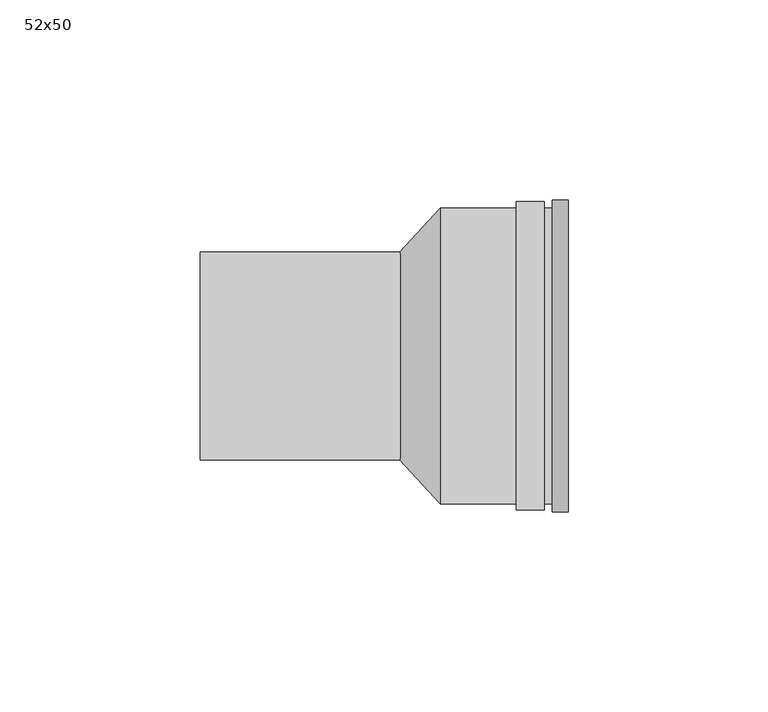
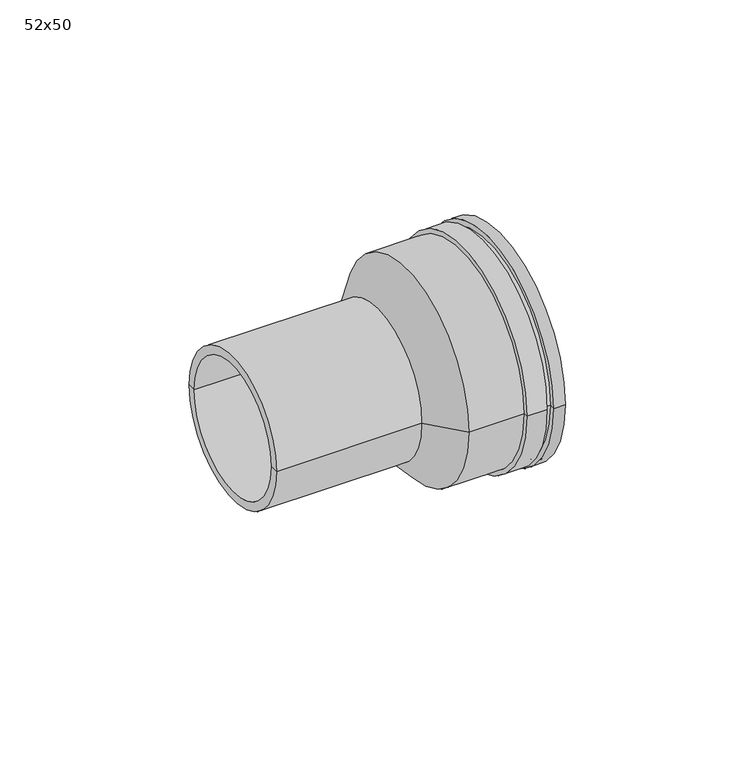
"""IFC4 building model written with IfcOpenShell, lengths in millimetres: pipe fitting geometry, AliaxisFR_Friaphon_UrinalConnector_FR : 52x50."""

from ifc_helpers import new_model, si_unit, frame, origin, place, context, project, spatial, polyline, circle_curve, source, transform, mapped, element, save
from ifc_brep_helpers import plane_surface, cylinder_surface, revolved_surface, advanced_brep


def pipe_fitting_52x50_36201972(model_context):
    return source(origin(), model_context, "Body", "AdvancedBrep", [
        advanced_brep(
        [(29.0, 38.5404487, 0.0), (29.0, -38.5404487, 0.0), (29.0, -37.0, 0.0), (29.0, 37.0, 0.0), (36.0, 38.5404487, 0.0), (36.0, -38.5404487, 0.0), (36.0, 37.0, 0.0), (36.0, -37.0, 0.0), (38.0, 37.0, 0.0), (38.0, -37.0, 0.0), (38.0, 34.0, 0.0), (38.0, -34.0, 0.0), (11.3271097, 34.0, 0.0), (11.3271097, -34.0, 0.0), (1.3271097, 23.0, 0.0), (1.3271097, -23.0, 0.0), (-50.0, 23.0, 0.0), (-50.0, -23.0, 0.0), (-50.0, 26.0, 0.0), (-50.0, -26.0, 0.0), (0.0, 26.0, 0.0), (0.0, -26.0, 0.0), (10.0, 37.0, 0.0), (10.0, -37.0, 0.0)],
        [
            (0, 1, circle_curve(frame((29.0, 0.0, 0.0), z_axis=(-1.0, 0.0, 0.0), x_axis=(0.0, -1.0, 0.0)), 38.5404487)),
            (1, 2),
            (2, 3, circle_curve(frame((29.0, 0.0, 0.0), z_axis=(1.0, 0.0, 0.0), x_axis=(0.0, -1.0, 0.0)), 37.0)),
            (3, 0),
            (1, 0, circle_curve(frame((29.0, 0.0, 0.0), z_axis=(-1.0, 0.0, 0.0), x_axis=(0.0, -1.0, 0.0)), 38.5404487)),
            (3, 2, circle_curve(frame((29.0, 0.0, 0.0), z_axis=(1.0, 0.0, 0.0), x_axis=(0.0, -1.0, 0.0)), 37.0)),
            (4, 5, circle_curve(frame((36.0, 0.0, 0.0), z_axis=(-1.0, 0.0, 0.0), x_axis=(0.0, -1.0, 0.0)), 38.5404487)),
            (5, 1),
            (0, 4),
            (5, 4, circle_curve(frame((36.0, 0.0, 0.0), z_axis=(-1.0, 0.0, 0.0), x_axis=(0.0, -1.0, 0.0)), 38.5404487)),
            (6, 7, circle_curve(frame((36.0, 0.0, 0.0), z_axis=(-1.0, 0.0, 0.0), x_axis=(0.0, -1.0, 0.0)), 37.0)),
            (7, 5),
            (4, 6),
            (7, 6, circle_curve(frame((36.0, 0.0, 0.0), z_axis=(-1.0, 0.0, 0.0), x_axis=(0.0, -1.0, 0.0)), 37.0)),
            (8, 9, circle_curve(frame((38.0, 0.0, 0.0), z_axis=(-1.0, 0.0, 0.0), x_axis=(0.0, -1.0, 0.0)), 37.0)),
            (9, 7),
            (6, 8),
            (9, 8, circle_curve(frame((38.0, 0.0, 0.0), z_axis=(-1.0, 0.0, 0.0), x_axis=(0.0, -1.0, 0.0)), 37.0)),
            (10, 11, circle_curve(frame((38.0, 0.0, 0.0), z_axis=(-1.0, 0.0, 0.0), x_axis=(0.0, -1.0, 0.0)), 34.0)),
            (11, 9),
            (8, 10),
            (11, 10, circle_curve(frame((38.0, 0.0, 0.0), z_axis=(-1.0, 0.0, 0.0), x_axis=(0.0, -1.0, 0.0)), 34.0)),
            (12, 13, circle_curve(frame((11.3271097, 0.0, 0.0), z_axis=(-1.0, 0.0, 0.0), x_axis=(0.0, -1.0, 0.0)), 34.0)),
            (13, 11),
            (10, 12),
            (13, 12, circle_curve(frame((11.3271097, 0.0, 0.0), z_axis=(-1.0, 0.0, 0.0), x_axis=(0.0, -1.0, 0.0)), 34.0)),
            (14, 15, circle_curve(frame((1.3271097, 0.0, 0.0), z_axis=(-1.0, 0.0, 0.0), x_axis=(0.0, -1.0, 0.0)), 23.0)),
            (15, 13),
            (12, 14),
            (15, 14, circle_curve(frame((1.3271097, 0.0, 0.0), z_axis=(-1.0, 0.0, 0.0), x_axis=(0.0, -1.0, 0.0)), 23.0)),
            (16, 17, circle_curve(frame((-50.0, 0.0, 0.0), z_axis=(-1.0, 0.0, 0.0), x_axis=(0.0, -1.0, 0.0)), 23.0)),
            (17, 15),
            (14, 16),
            (17, 16, circle_curve(frame((-50.0, 0.0, 0.0), z_axis=(-1.0, 0.0, 0.0), x_axis=(0.0, -1.0, 0.0)), 23.0)),
            (18, 19, circle_curve(frame((-50.0, 0.0, 0.0), z_axis=(-1.0, 0.0, 0.0), x_axis=(0.0, -1.0, 0.0)), 26.0)),
            (19, 17),
            (16, 18),
            (19, 18, circle_curve(frame((-50.0, 0.0, 0.0), z_axis=(-1.0, 0.0, 0.0), x_axis=(0.0, -1.0, 0.0)), 26.0)),
            (20, 21, circle_curve(frame((0.0, 0.0, 0.0), z_axis=(-1.0, 0.0, 0.0), x_axis=(0.0, -1.0, 0.0)), 26.0)),
            (21, 19),
            (18, 20),
            (21, 20, circle_curve(frame((0.0, 0.0, 0.0), z_axis=(-1.0, 0.0, 0.0), x_axis=(0.0, -1.0, 0.0)), 26.0)),
            (22, 23, circle_curve(frame((10.0, 0.0, 0.0), z_axis=(-1.0, 0.0, 0.0), x_axis=(0.0, -1.0, 0.0)), 37.0)),
            (23, 21),
            (20, 22),
            (23, 22, circle_curve(frame((10.0, 0.0, 0.0), z_axis=(-1.0, 0.0, 0.0), x_axis=(0.0, -1.0, 0.0)), 37.0)),
            (2, 23),
            (22, 3),
        ],
        [
            plane_surface(frame((29.0, 0.0, 0.0), z_axis=(-1.0, 0.0, 0.0), x_axis=(0.0, -1.0, 0.0))),
            cylinder_surface(frame((2000.0, 0.0, 0.0), z_axis=(1.0, 0.0, 0.0), x_axis=(0.0, -1.0, 0.0)), 38.5404487),
            plane_surface(frame((36.0, 0.0, 0.0), z_axis=(1.0, 0.0, 0.0), x_axis=(0.0, -1.0, 0.0))),
            cylinder_surface(frame((2000.0, 0.0, 0.0), z_axis=(1.0, 0.0, 0.0), x_axis=(0.0, -1.0, 0.0)), 37.0),
            plane_surface(frame((38.0, 0.0, 0.0), z_axis=(1.0, 0.0, 0.0), x_axis=(0.0, -1.0, 0.0))),
            revolved_surface(polyline([(38.0, -34.0, 0.0), (11.327109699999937, -34.0, 0.0)]), (2000.0, 0.0, 0.0), (1.0, 0.0, 0.0)),
            revolved_surface(polyline([(11.3271097, -34.0, 0.0), (1.3271097, -23.0, 0.0)]), (2000.0, 0.0, 0.0), (1.0, 0.0, 0.0)),
            revolved_surface(polyline([(1.3271096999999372, -23.0, 0.0), (-50.0, -23.0, 0.0)]), (2000.0, 0.0, 0.0), (1.0, 0.0, 0.0)),
            plane_surface(frame((-50.0, 0.0, 0.0), z_axis=(-1.0, 0.0, 0.0), x_axis=(0.0, -1.0, 0.0))),
            cylinder_surface(frame((2000.0, 0.0, 0.0), z_axis=(1.0, 0.0, 0.0), x_axis=(0.0, -1.0, 0.0)), 26.0),
            revolved_surface(polyline([(0.0, -26.0, 0.0), (10.0, -37.0, 0.0)]), (2000.0, 0.0, 0.0), (1.0, 0.0, 0.0)),
        ],
        [
            (0, [[1, 2, 3, 4]]),
            (0, [[5, -4, 6, -2]]),
            (1, [[7, 8, -1, 9]]),
            (1, [[10, -9, -5, -8]]),
            (2, [[11, 12, -7, 13]]),
            (2, [[14, -13, -10, -12]]),
            (3, [[15, 16, -11, 17]]),
            (3, [[18, -17, -14, -16]]),
            (4, [[19, 20, -15, 21]]),
            (4, [[22, -21, -18, -20]]),
            (5, [[23, 24, -19, 25]]),
            (5, [[26, -25, -22, -24]]),
            (6, [[27, 28, -23, 29]]),
            (6, [[30, -29, -26, -28]]),
            (7, [[31, 32, -27, 33]]),
            (7, [[34, -33, -30, -32]]),
            (8, [[35, 36, -31, 37]]),
            (8, [[38, -37, -34, -36]]),
            (9, [[39, 40, -35, 41]]),
            (9, [[42, -41, -38, -40]]),
            (10, [[43, 44, -39, 45]]),
            (10, [[46, -45, -42, -44]]),
            (3, [[-3, 47, -43, 48]]),
            (3, [[-6, -48, -46, -47]]),
        ],
    ),
        advanced_brep(
        [(10.0, -25.0, 0.0), (10.0, 25.0, 0.0), (10.0, 34.0, 0.0), (10.0, -34.0, 0.0), (42.0, -25.0, 0.0), (42.0, 25.0, 0.0), (42.0, -39.0, 0.0), (42.0, 39.0, 0.0), (38.0, -39.0, 0.0), (38.0, 39.0, 0.0), (38.0, -34.0, 0.0), (38.0, 34.0, 0.0)],
        [
            (0, 1, circle_curve(frame((10.0, 0.0, 0.0), z_axis=(1.0, 0.0, 0.0), x_axis=(0.0, 1.0, 0.0)), 25.0)),
            (1, 2),
            (2, 3, circle_curve(frame((10.0, 0.0, 0.0), z_axis=(-1.0, 0.0, 0.0), x_axis=(0.0, 1.0, 0.0)), 34.0)),
            (3, 0),
            (1, 0, circle_curve(frame((10.0, 0.0, 0.0), z_axis=(1.0, 0.0, 0.0), x_axis=(0.0, 1.0, 0.0)), 25.0)),
            (3, 2, circle_curve(frame((10.0, 0.0, 0.0), z_axis=(-1.0, 0.0, 0.0), x_axis=(0.0, 1.0, 0.0)), 34.0)),
            (4, 5, circle_curve(frame((42.0, 0.0, 0.0), z_axis=(1.0, 0.0, 0.0), x_axis=(0.0, 1.0, 0.0)), 25.0)),
            (5, 1),
            (0, 4),
            (5, 4, circle_curve(frame((42.0, 0.0, 0.0), z_axis=(1.0, 0.0, 0.0), x_axis=(0.0, 1.0, 0.0)), 25.0)),
            (6, 7, circle_curve(frame((42.0, 0.0, 0.0), z_axis=(1.0, 0.0, 0.0), x_axis=(0.0, 1.0, 0.0)), 39.0)),
            (7, 5),
            (4, 6),
            (7, 6, circle_curve(frame((42.0, 0.0, 0.0), z_axis=(1.0, 0.0, 0.0), x_axis=(0.0, 1.0, 0.0)), 39.0)),
            (8, 9, circle_curve(frame((38.0, 0.0, 0.0), z_axis=(1.0, 0.0, 0.0), x_axis=(0.0, 1.0, 0.0)), 39.0)),
            (9, 7),
            (6, 8),
            (9, 8, circle_curve(frame((38.0, 0.0, 0.0), z_axis=(1.0, 0.0, 0.0), x_axis=(0.0, 1.0, 0.0)), 39.0)),
            (10, 11, circle_curve(frame((38.0, 0.0, 0.0), z_axis=(1.0, 0.0, 0.0), x_axis=(0.0, 1.0, 0.0)), 34.0)),
            (11, 9),
            (8, 10),
            (11, 10, circle_curve(frame((38.0, 0.0, 0.0), z_axis=(1.0, 0.0, 0.0), x_axis=(0.0, 1.0, 0.0)), 34.0)),
            (2, 11),
            (10, 3),
        ],
        [
            plane_surface(frame((10.0, 0.0, 0.0), z_axis=(-1.0, 0.0, 0.0), x_axis=(0.0, 1.0, 0.0))),
            revolved_surface(polyline([(10.0, 25.0, 0.0), (42.0, 25.0, 0.0)]), (2000.0, 0.0, 0.0), (-1.0, 0.0, 0.0)),
            plane_surface(frame((42.0, 0.0, 0.0), z_axis=(1.0, 0.0, 0.0), x_axis=(0.0, 1.0, 0.0))),
            cylinder_surface(frame((2000.0, 0.0, 0.0), z_axis=(-1.0, 0.0, 0.0), x_axis=(0.0, 1.0, 0.0)), 39.0),
            plane_surface(frame((38.0, 0.0, 0.0), z_axis=(-1.0, 0.0, 0.0), x_axis=(0.0, 1.0, 0.0))),
            cylinder_surface(frame((2000.0, 0.0, 0.0), z_axis=(-1.0, 0.0, 0.0), x_axis=(0.0, 1.0, 0.0)), 34.0),
        ],
        [
            (0, [[1, 2, 3, 4]]),
            (0, [[5, -4, 6, -2]]),
            (1, [[7, 8, -1, 9]]),
            (1, [[10, -9, -5, -8]]),
            (2, [[11, 12, -7, 13]]),
            (2, [[14, -13, -10, -12]]),
            (3, [[15, 16, -11, 17]]),
            (3, [[18, -17, -14, -16]]),
            (4, [[19, 20, -15, 21]]),
            (4, [[22, -21, -18, -20]]),
            (5, [[-3, 23, -19, 24]]),
            (5, [[-6, -24, -22, -23]]),
        ],
    ),
    ])


if __name__ == "__main__":
    model = new_model("IFC4")
    model_context = context("Model", 3, world=origin())
    ifc_project = project(units=[si_unit("LENGTHUNIT", "METRE", prefix="MILLI")], contexts=[model_context])
    site = spatial("IfcSite", under=ifc_project)
    building = spatial("IfcBuilding", under=site)
    placement = place(None, origin())
    pipe_fitting_52x50_shape = pipe_fitting_52x50_36201972(model_context)
    element("IfcPipeFitting", 1, ObjectType="AliaxisFR_Friaphon_UrinalConnector_FR : 52x50", at=placement, inside=building, context=model_context, shape_type="MappedRepresentation", body=[
        mapped(pipe_fitting_52x50_shape, transform((0.0, 0.0, 0.0), x_axis=(1.0, 0.0, 0.0), y_axis=(0.0, 1.0, 0.0), z_axis=(0.0, 0.0, 1.0))),
    ])
    save(model, "model.ifc")
